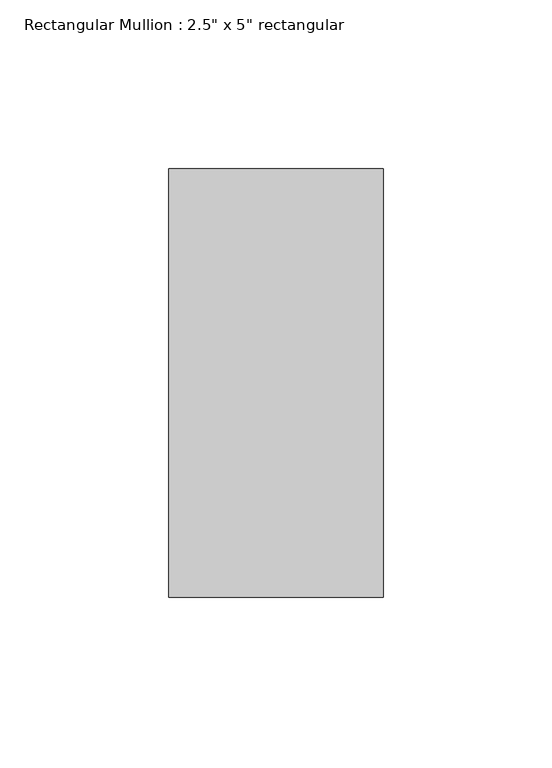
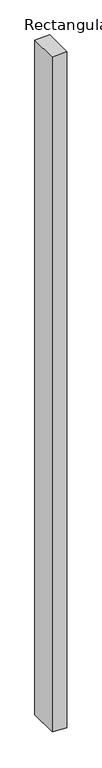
"""IFC4 building model written with IfcOpenShell, lengths in millimetres: member geometry."""

from ifc_helpers import new_model, si_unit, frame, origin, place, context, project, spatial, polyline, outline, extrude, source, transform, mapped, element, save


def member_549f2401(model_context):
    return source(origin(), model_context, "Body", "SweptSolid", [
        extrude(outline(polyline([(0.0, 0.0), (-2.1378849, -63.5), (-3049.0226638, -63.5), (-3053.3409629, 0.0), (0.0, 0.0)])), frame((0.0, -63.5, 0.0), z_axis=(0.0, 1.0, 0.0), x_axis=(0.0, 0.0, 1.0)), (0.0, 0.0, 1.0), 127.0),
    ])


if __name__ == "__main__":
    model = new_model("IFC4")
    model_context = context("Model", 3, world=origin())
    ifc_project = project(units=[si_unit("LENGTHUNIT", "METRE", prefix="MILLI")], contexts=[model_context])
    site = spatial("IfcSite", under=ifc_project)
    building = spatial("IfcBuilding", under=site)
    placement = place(None, origin())
    member_shape = member_549f2401(model_context)
    element("IfcMember", 1, ObjectType="Rectangular Mullion : 2.5\" x 5\" rectangular", at=placement, inside=building, context=model_context, shape_type="MappedRepresentation", body=[
        mapped(member_shape, transform((0.0, 0.0, 0.0), x_axis=(1.0, 0.0, 0.0), y_axis=(0.0, 1.0, 0.0), z_axis=(0.0, 0.0, 1.0))),
    ])
    save(model, "model.ifc")
